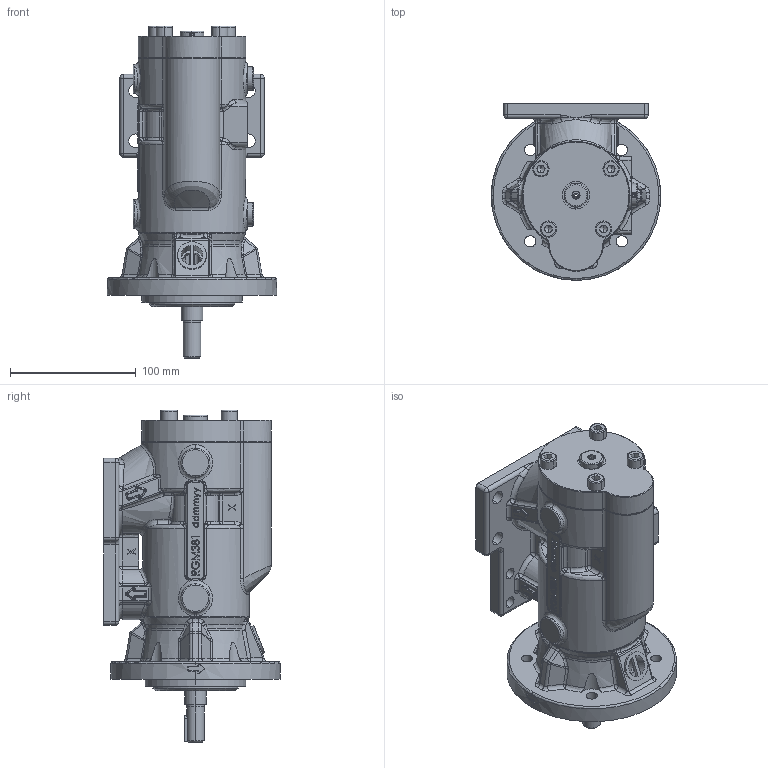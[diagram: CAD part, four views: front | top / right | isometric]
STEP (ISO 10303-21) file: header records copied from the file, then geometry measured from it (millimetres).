
FILE_DESCRIPTION (( 'STEP AP203' ), '1' );
FILE_NAME ('RFT 32 - 42.STEP', '2020-03-09T08:12:36', ( '' ), ( '' ), 'SwSTEP 2.0', 'SolidWorks 2019', '' );
FILE_SCHEMA (( 'CONFIG_CONTROL_DESIGN' ));
Products named in the file (1): RFT 32 - 42
Bounding box: 135 x 140.5 x 264.5 mm (x, y, z)
Surface area: 158853 mm2 (no closed solid volume)
Topology: 0 solids, 69 shells, 1390 faces, 6091 edges, 4630 vertices
Faces by surface type: plane 474, cylinder 396, bspline 345, torus 73, sphere 69, cone 33
Entity records: 90750 total; most frequent: CARTESIAN_POINT 46628, ORIENTED_EDGE 8837, DIRECTION 7475, EDGE_CURVE 6039, VERTEX_POINT 4630, VECTOR 2943, LINE 2943, AXIS2_PLACEMENT_3D 2266
